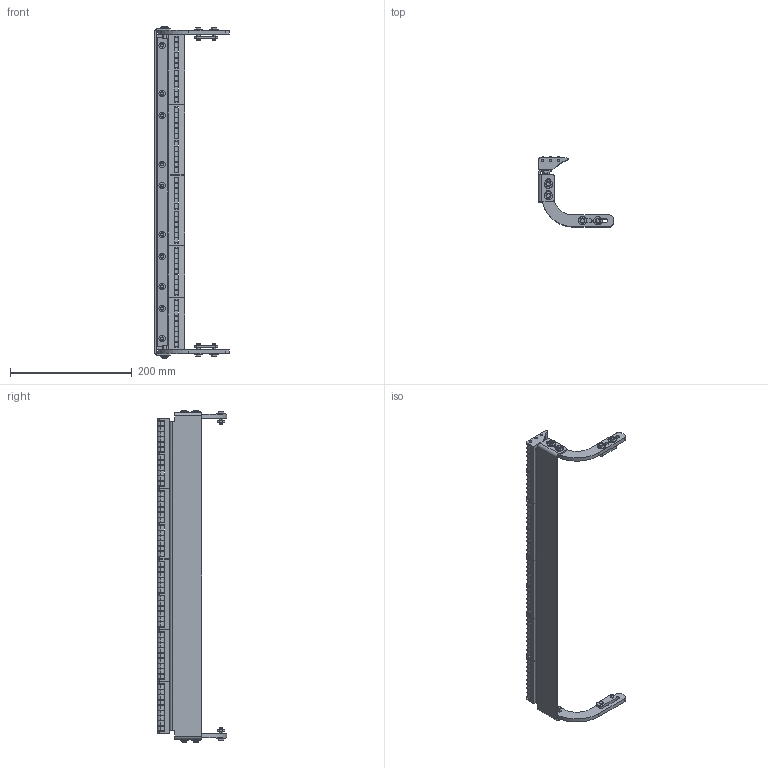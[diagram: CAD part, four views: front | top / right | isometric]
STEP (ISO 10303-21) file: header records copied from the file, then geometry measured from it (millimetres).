
FILE_DESCRIPTION((''),'2;1');
FILE_NAME('518355-20_ASM','2023-03-24T',('jenni.wallner'),(''),'PRO/ENGINEER BY PARAMETRIC TECHNOLOGY CORPORATION, 2012420','PRO/ENGINEER BY PARAMETRIC TECHNOLOGY CORPORATION, 2012420','');
FILE_SCHEMA(('CONFIG_CONTROL_DESIGN'));
Length unit declared in the file: inch
Products named in the file (75): 807-1829_5-1-SOLID1; 807-1829_1-1-SOLID1; 807-1829_23-1-SOLID1; 807-1829_12-1-SOLID1; 807-1829_11-1-SOLID1; 807-1829_16-1-SOLID1; 807-1829_14-1-SOLID1; 807-1829-1-SOLID1; CUT-EXTRUDE1_1_; 807-1829_9-1-SOLID1; 807-1829_8-1-SOLID1; CUT-EXTRUDE1_3_; 807-1829_4-1-SOLID1; 807-1829_17-1-SOLID1; 807-1829_6-1-SOLID1; 807-1829_2-1-SOLID1; 807-1829_27-1-SOLID1; 807-1829_21-1-SOLID1; 807-1829_13-1-SOLID1; 807-1829_24-1-SOLID1; 807-1829_19-1-SOLID1; 807-1829_26-1-SOLID1; 807-1829_7-1-SOLID1; CUT-EXTRUDE1_2_; 807-1829_25-1-SOLID1; 807-1829_3-1-SOLID1; 807-1829_20-1-SOLID1; 807-1829_18-1-SOLID1; 807-1829_10-1-SOLID1; 807-1829_15-1-SOLID1; 807-1829_ASM; 960616MSSF; 807-1830_20-1-SOLID1; 807-1830_6-1-SOLID1; 807-1830_1-1-SOLID1; 807-1830_14-1-SOLID1; 807-1830_4-1-SOLID1; 807-1830_28-1-SOLID1; 807-1830_31-1-SOLID1; 807-1830_12-1-SOLID1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
Assembly tree (86 placements, depth 4):
  518355-20_ASM
    ASM0001_ASM
      807-1829_ASM  x2
        807-1829_5-1-SOLID1
        807-1829_1-1-SOLID1
        807-1829_23-1-SOLID1
        807-1829_12-1-SOLID1
        807-1829_11-1-SOLID1
        807-1829_16-1-SOLID1
        807-1829_14-1-SOLID1
        807-1829-1-SOLID1
        CUT-EXTRUDE1_1_
        807-1829_9-1-SOLID1
        807-1829_8-1-SOLID1
        CUT-EXTRUDE1_3_
        807-1829_4-1-SOLID1
        807-1829_17-1-SOLID1
        807-1829_6-1-SOLID1
        807-1829_2-1-SOLID1
        807-1829_27-1-SOLID1
        807-1829_21-1-SOLID1
        807-1829_13-1-SOLID1
        807-1829_24-1-SOLID1
        807-1829_19-1-SOLID1
        807-1829_26-1-SOLID1
        807-1829_7-1-SOLID1
        CUT-EXTRUDE1_2_
        807-1829_25-1-SOLID1
        807-1829_3-1-SOLID1
        807-1829_20-1-SOLID1
        807-1829_18-1-SOLID1
        807-1829_10-1-SOLID1
        807-1829_15-1-SOLID1
      960616MSSF  x8
      807-1830_ASM  x3
        807-1830_20-1-SOLID1
        807-1830_6-1-SOLID1
        807-1830_1-1-SOLID1
        807-1830_14-1-SOLID1
        807-1830_4-1-SOLID1
        807-1830_28-1-SOLID1
        807-1830_31-1-SOLID1
        807-1830_12-1-SOLID1
        807-1830_21-1-SOLID1
        807-1830_22-1-SOLID1
        807-1830_11-1-SOLID1
        807-1830_34-1-SOLID1
        807-1830_16-1-SOLID1
        807-1830_8-1-SOLID1
        807-1830_5-1-SOLID1
        807-1830_29-1-SOLID1
        807-1830_15-1-SOLID1
        807-1830_10-1-SOLID1
        807-1830_9-1-SOLID1
        807-1830_19-1-SOLID1
        807-1830_36-1-SOLID1
        807-1830_27-1-SOLID1
        807-1830_30-1-SOLID1
        807-1830_35-1-SOLID1
        807-1830_32-1-SOLID1
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Bounding box: 122.82 x 114.68 x 546.52 mm (x, y, z)
Volume: 420035.3 mm3; surface area: 257016.7 mm2
Topology: 184 solids, 184 shells, 1302 faces, 2620 edges, 1728 vertices
Faces by surface type: plane 648, cylinder 602, cone 52
Entity records: 16503 total; most frequent: DIRECTION 3172, CARTESIAN_POINT 2645, ORIENTED_EDGE 2190, AXIS2_PLACEMENT_3D 1313, EDGE_CURVE 1095, VERTEX_POINT 723, EDGE_LOOP 608, VECTOR 546
